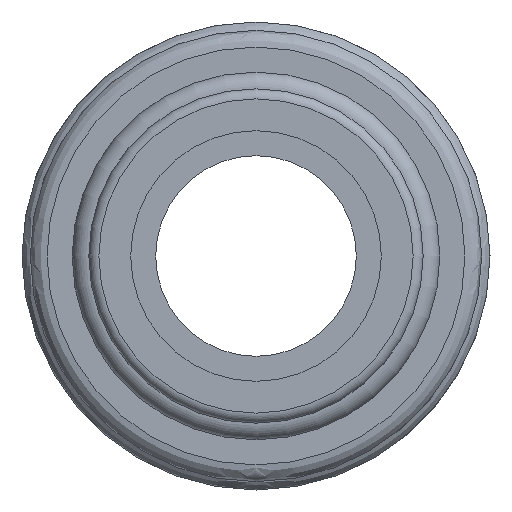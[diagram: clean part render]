
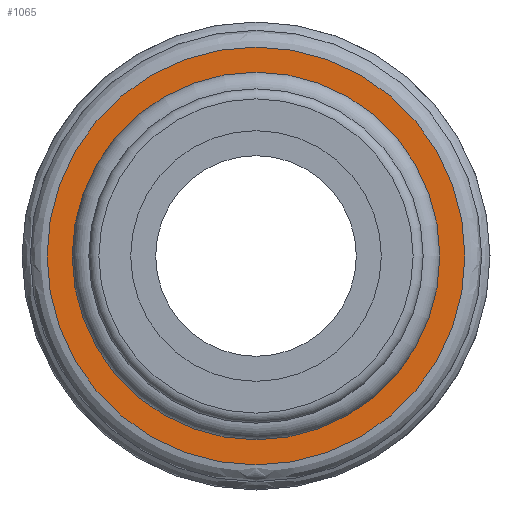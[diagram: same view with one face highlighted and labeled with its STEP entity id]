
A CAD part, left-side view. The second image highlights one B-rep face of the part: STEP entity #1065.
In plain terms, the highlighted free-form (B-spline) face has degree [1, 1] with [2, 2] control points.
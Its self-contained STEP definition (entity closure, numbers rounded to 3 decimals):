
#281=CARTESIAN_POINT('',(-27.9,4.0,0.0));
#282=VERTEX_POINT('',#281);
#283=CARTESIAN_POINT('',(-27.9,0.0,0.0));
#284=DIRECTION('',(-1.0,0.0,0.0));
#285=DIRECTION('',(0.0,1.0,0.0));
#286=AXIS2_PLACEMENT_3D('',#283,#284,#285);
#287=CIRCLE('',#286,4.0);
#288=EDGE_CURVE('',#282,#282,#287,.T.);
#990=CARTESIAN_POINT('',(-27.9,0.,-6.25));
#991=VERTEX_POINT('',#990);
#992=CARTESIAN_POINT('',(-27.9,0.0,0.0));
#993=DIRECTION('',(-1.0,0.0,0.0));
#994=DIRECTION('',(0.0,0.0,1.0));
#995=AXIS2_PLACEMENT_3D('',#992,#993,#994);
#996=CIRCLE('',#995,6.25);
#997=EDGE_CURVE('',#991,#991,#996,.T.);
#1054=CARTESIAN_POINT('',(-27.9,6.25,-6.25));
#1055=CARTESIAN_POINT('',(-27.9,6.25,6.25));
#1056=CARTESIAN_POINT('',(-27.9,-6.25,-6.25));
#1057=CARTESIAN_POINT('',(-27.9,-6.25,6.25));
#1058=B_SPLINE_SURFACE_WITH_KNOTS('',1,1,((#1054,#1056),(#1055,#1057)),.UNSPECIFIED.,.F.,.F.,.U.,(2,2),(2,2),(0.0,12.5),(0.0,12.5),.UNSPECIFIED.);
#1059=ORIENTED_EDGE('',*,*,#997,.T.);
#1060=EDGE_LOOP('',(#1059));
#1061=FACE_OUTER_BOUND('',#1060,.T.);
#1062=ORIENTED_EDGE('',*,*,#288,.F.);
#1063=EDGE_LOOP('',(#1062));
#1064=FACE_BOUND('',#1063,.T.);
#1065=ADVANCED_FACE('',(#1061,#1064),#1058,.F.);
